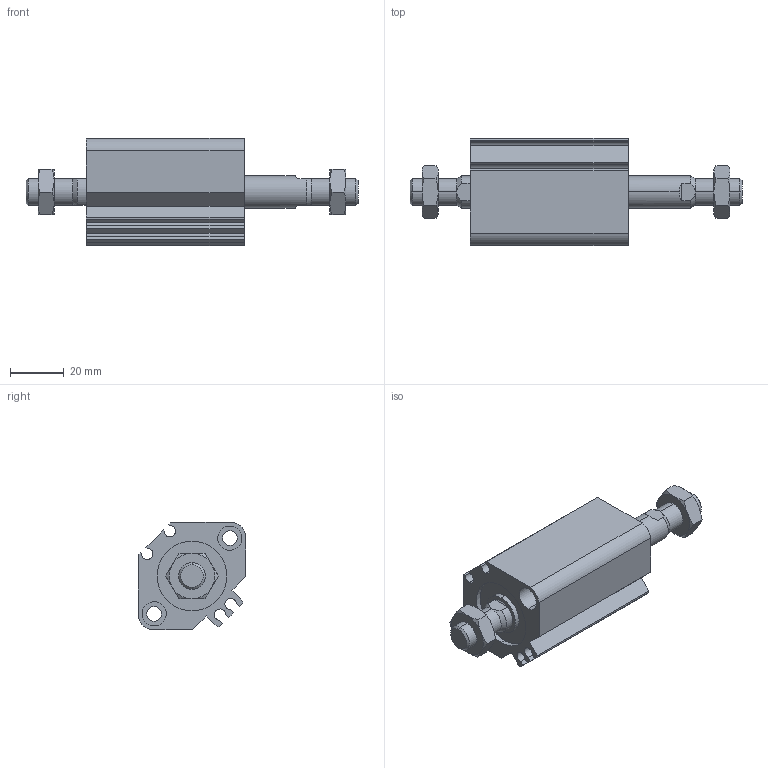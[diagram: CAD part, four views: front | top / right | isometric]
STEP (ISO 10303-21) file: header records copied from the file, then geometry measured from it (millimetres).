
FILE_DESCRIPTION (( 'STEP AP203' ), '1' );
FILE_NAME ('CCMB25-20M-P.STEP', '2020-08-10T11:28:13', ( '' ), ( '' ), 'SwSTEP 2.0', 'SolidWorks 2019', '' );
FILE_SCHEMA (( 'CONFIG_CONTROL_DESIGN' ));
Length unit declared in the file: millimetre
Products named in the file (1): CCMB25-20M-P
Bounding box: 124 x 40 x 40 mm (x, y, z)
Volume: 74330.6 mm3; surface area: 28645.9 mm2
Topology: 4 solids, 4 shells, 166 faces, 384 edges, 240 vertices
Faces by surface type: plane 66, cylinder 56, cone 44
Entity records: 5403 total; most frequent: CARTESIAN_POINT 1543, DIRECTION 806, ORIENTED_EDGE 768, EDGE_CURVE 384, AXIS2_PLACEMENT_3D 319, VERTEX_POINT 240, EDGE_LOOP 190, LINE 168
